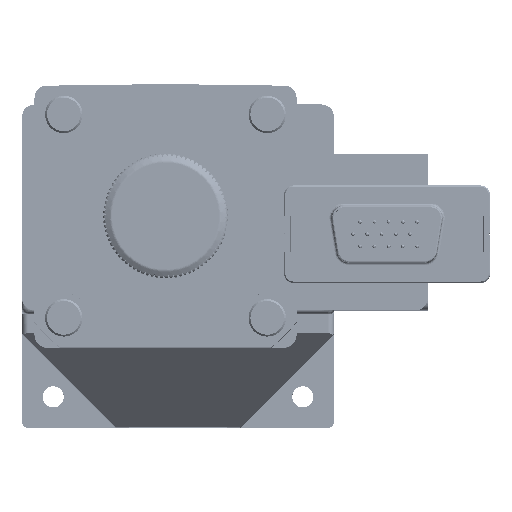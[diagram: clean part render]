
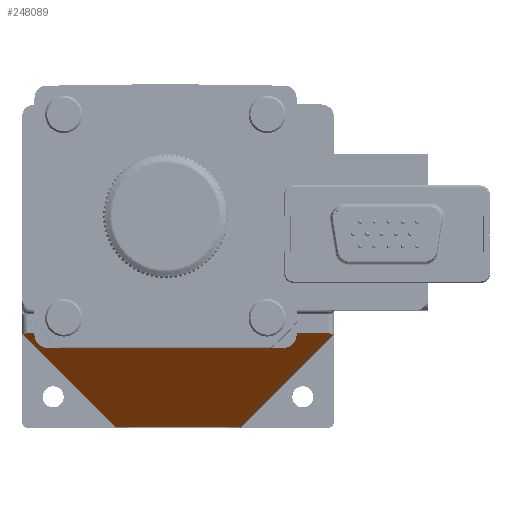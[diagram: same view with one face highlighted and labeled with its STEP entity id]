
A CAD part, top view. The second image highlights one B-rep face of the part: STEP entity #248089.
In plain terms, the highlighted planar face has unit normal (0, -0.707, 0.707) as drawn and (0.707, -0.707, 0) by its records, which use the part's own axes.
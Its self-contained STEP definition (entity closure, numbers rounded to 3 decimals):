
#2461 = AXIS2_PLACEMENT_3D ( 'NONE', #26206, #181214, #224922 ) ;
#3099 = DIRECTION ( 'NONE',  ( 0., 0., 1. ) ) ;
#6905 = VERTEX_POINT ( 'NONE', #29897 ) ;
#9217 = VERTEX_POINT ( 'NONE', #100735 ) ;
#17410 = CARTESIAN_POINT ( 'NONE',  ( 60., 15., -24. ) ) ;
#18785 = CARTESIAN_POINT ( 'NONE',  ( 59.707, 14.707, -24.707 ) ) ;
#26206 = CARTESIAN_POINT ( 'NONE',  ( 60., 15., -25. ) ) ;
#29897 = CARTESIAN_POINT ( 'NONE',  ( 59.707, 14.707, -24.707 ) ) ;
#32031 = CARTESIAN_POINT ( 'NONE',  ( 60., 15., -25. ) ) ;
#38560 = CARTESIAN_POINT ( 'NONE',  ( 20., -25., -15. ) ) ;
#42264 = VERTEX_POINT ( 'NONE', #226244 ) ;
#52292 = VERTEX_POINT ( 'NONE', #98053 ) ;
#63834 = DIRECTION ( 'NONE',  ( -0.577, -0.577, -0.577 ) ) ;
#69366 = LINE ( 'NONE', #89145, #180118 ) ;
#70766 = DIRECTION ( 'NONE',  ( -0.577, -0.577, 0.577 ) ) ;
#77122 = DIRECTION ( 'NONE',  ( 0., 0., -1. ) ) ;
#89145 = CARTESIAN_POINT ( 'NONE',  ( 60., 15., -25. ) ) ;
#93855 = CARTESIAN_POINT ( 'NONE',  ( 45., 0., 10. ) ) ;
#94501 = EDGE_CURVE ( 'NONE', #9217, #98543, #169604, .T. ) ;
#98053 = CARTESIAN_POINT ( 'NONE',  ( 45., 0., -10. ) ) ;
#98543 = VERTEX_POINT ( 'NONE', #93855 ) ;
#100735 = CARTESIAN_POINT ( 'NONE',  ( 59.707, 14.707, 24.707 ) ) ;
#104802 = CARTESIAN_POINT ( 'NONE',  ( 60., 15., -24.269 ) ) ;
#108852 = CARTESIAN_POINT ( 'NONE',  ( 60., 15., 24.269 ) ) ;
#110259 = LINE ( 'NONE', #130017, #205727 ) ;
#119036 = EDGE_CURVE ( 'NONE', #233216, #9217, #241837, .T. ) ;
#130017 = CARTESIAN_POINT ( 'NONE',  ( 45., 0., 25. ) ) ;
#145139 = EDGE_LOOP ( 'NONE', ( #219789, #221244, #276284, #194997, #157809, #274877 ) ) ;
#149496 =( BOUNDED_CURVE ( )  B_SPLINE_CURVE ( 3, ( #18785, #206421, #104802, #17410 ),
 .UNSPECIFIED., .F., .F. ) 
 B_SPLINE_CURVE_WITH_KNOTS ( ( 4, 4 ),
 ( 2.356, 3.142 ),
 .UNSPECIFIED. ) 
 CURVE ( )  GEOMETRIC_REPRESENTATION_ITEM ( )  RATIONAL_B_SPLINE_CURVE ( ( 1., 0.949, 0.949, 1. ) ) 
 REPRESENTATION_ITEM ( '' )  );
#157809 = ORIENTED_EDGE ( 'NONE', *, *, #94501, .T. ) ;
#169604 = LINE ( 'NONE', #38560, #219844 ) ;
#180118 = VECTOR ( 'NONE', #70766, 1000. ) ;
#181214 = DIRECTION ( 'NONE',  ( -0.707, 0.707, 0. ) ) ;
#181701 = VECTOR ( 'NONE', #77122, 1000. ) ;
#186325 = EDGE_CURVE ( 'NONE', #233216, #42264, #204027, .T. ) ;
#194997 = ORIENTED_EDGE ( 'NONE', *, *, #119036, .T. ) ;
#196257 = CARTESIAN_POINT ( 'NONE',  ( 59.707, 14.707, 24.707 ) ) ;
#202379 = FACE_OUTER_BOUND ( 'NONE', #145139, .T. ) ;
#204027 = LINE ( 'NONE', #32031, #181701 ) ;
#204833 = CARTESIAN_POINT ( 'NONE',  ( 60., 15., 24. ) ) ;
#205727 = VECTOR ( 'NONE', #3099, 1000. ) ;
#206421 = CARTESIAN_POINT ( 'NONE',  ( 59.897, 14.897, -24.517 ) ) ;
#219789 = ORIENTED_EDGE ( 'NONE', *, *, #222593, .F. ) ;
#219844 = VECTOR ( 'NONE', #63834, 1000. ) ;
#220135 = CARTESIAN_POINT ( 'NONE',  ( 60., 15., 24. ) ) ;
#221244 = ORIENTED_EDGE ( 'NONE', *, *, #224200, .T. ) ;
#222593 = EDGE_CURVE ( 'NONE', #6905, #52292, #69366, .T. ) ;
#224200 = EDGE_CURVE ( 'NONE', #6905, #42264, #149496, .T. ) ;
#224922 = DIRECTION ( 'NONE',  ( -0.707, -0.707, 0. ) ) ;
#226244 = CARTESIAN_POINT ( 'NONE',  ( 60., 15., -24. ) ) ;
#233216 = VERTEX_POINT ( 'NONE', #204833 ) ;
#237188 = CARTESIAN_POINT ( 'NONE',  ( 59.897, 14.897, 24.517 ) ) ;
#241837 =( BOUNDED_CURVE ( )  B_SPLINE_CURVE ( 3, ( #220135, #108852, #237188, #196257 ),
 .UNSPECIFIED., .F., .F. ) 
 B_SPLINE_CURVE_WITH_KNOTS ( ( 4, 4 ),
 ( 3.142, 3.927 ),
 .UNSPECIFIED. ) 
 CURVE ( )  GEOMETRIC_REPRESENTATION_ITEM ( )  RATIONAL_B_SPLINE_CURVE ( ( 1., 0.949, 0.949, 1. ) ) 
 REPRESENTATION_ITEM ( '' )  );
#241953 = PLANE ( 'NONE',  #2461 ) ;
#248089 = ADVANCED_FACE ( 'NONE', ( #202379 ), #241953, .F. ) ;
#251475 = EDGE_CURVE ( 'NONE', #52292, #98543, #110259, .T. ) ;
#274877 = ORIENTED_EDGE ( 'NONE', *, *, #251475, .F. ) ;
#276284 = ORIENTED_EDGE ( 'NONE', *, *, #186325, .F. ) ;
